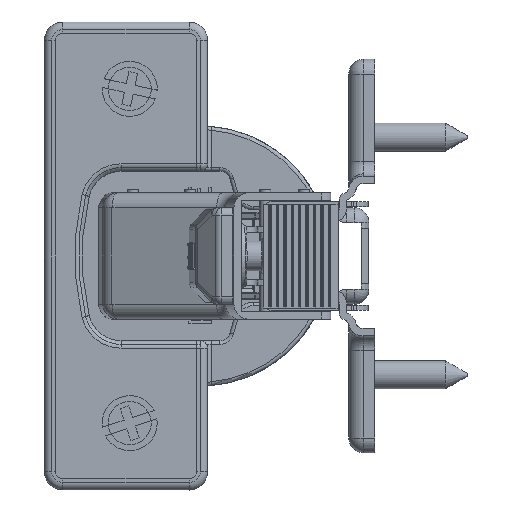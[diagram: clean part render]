
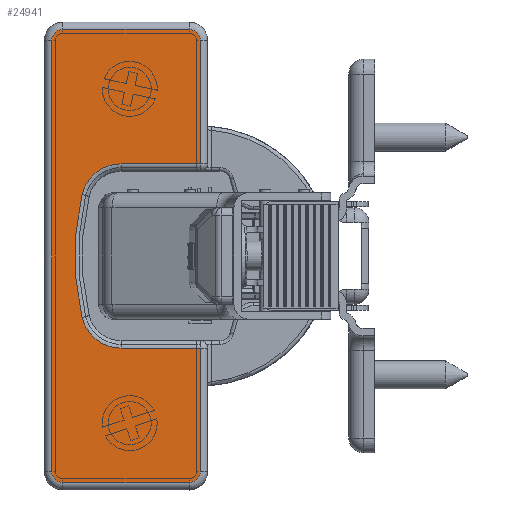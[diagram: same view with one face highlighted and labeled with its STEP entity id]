
A CAD part, left-side view. The second image highlights one B-rep face of the part: STEP entity #24941.
In plain terms, the highlighted planar face has unit normal (-1, 0, 0) as drawn and (0.179, 0.984, 0) by its records, which use the part's own axes.
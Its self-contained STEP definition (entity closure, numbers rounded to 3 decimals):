
#2434=CIRCLE('',#27136,1.5);
#2438=CIRCLE('',#27142,1.5);
#2442=CIRCLE('',#27148,1.5);
#2446=CIRCLE('',#27154,1.5);
#2450=CIRCLE('',#27161,5.4);
#2453=CIRCLE('',#27165,35.4);
#2456=CIRCLE('',#27169,5.4);
#3631=FACE_OUTER_BOUND('',#5159,.T.);
#5159=EDGE_LOOP('',(#20278,#20279,#20280,#20281,#20282,#20283,#20284,#20285,
#20286,#20287,#20288,#20289,#20290,#20291));
#7037=LINE('',#41890,#9015);
#7039=LINE('',#41902,#9017);
#7041=LINE('',#41914,#9019);
#7043=LINE('',#41926,#9021);
#7045=LINE('',#41935,#9023);
#7047=LINE('',#41941,#9025);
#7049=LINE('',#41962,#9027);
#9015=VECTOR('',#32811,16.6);
#9017=VECTOR('',#32825,17.);
#9019=VECTOR('',#32839,58.);
#9021=VECTOR('',#32853,17.);
#9023=VECTOR('',#32865,16.6);
#9025=VECTOR('',#32871,10.672);
#9027=VECTOR('',#32899,10.672);
#11120=VERTEX_POINT('',#41862);
#11125=VERTEX_POINT('',#41875);
#11130=VERTEX_POINT('',#41888);
#11132=VERTEX_POINT('',#41894);
#11134=VERTEX_POINT('',#41900);
#11136=VERTEX_POINT('',#41906);
#11138=VERTEX_POINT('',#41912);
#11140=VERTEX_POINT('',#41918);
#11142=VERTEX_POINT('',#41924);
#11144=VERTEX_POINT('',#41930);
#11146=VERTEX_POINT('',#41939);
#11148=VERTEX_POINT('',#41945);
#11150=VERTEX_POINT('',#41951);
#11152=VERTEX_POINT('',#41957);
#14211=EDGE_CURVE('',#11130,#11125,#7037,.T.);
#14214=EDGE_CURVE('',#11132,#11130,#2434,.T.);
#14217=EDGE_CURVE('',#11134,#11132,#7039,.T.);
#14220=EDGE_CURVE('',#11136,#11134,#2438,.T.);
#14223=EDGE_CURVE('',#11138,#11136,#7041,.T.);
#14226=EDGE_CURVE('',#11140,#11138,#2442,.T.);
#14229=EDGE_CURVE('',#11142,#11140,#7043,.T.);
#14232=EDGE_CURVE('',#11144,#11142,#2446,.T.);
#14234=EDGE_CURVE('',#11120,#11144,#7045,.T.);
#14237=EDGE_CURVE('',#11146,#11120,#7047,.T.);
#14240=EDGE_CURVE('',#11148,#11146,#2450,.T.);
#14243=EDGE_CURVE('',#11150,#11148,#2453,.T.);
#14246=EDGE_CURVE('',#11152,#11150,#2456,.T.);
#14248=EDGE_CURVE('',#11125,#11152,#7049,.T.);
#20278=ORIENTED_EDGE('',*,*,#14211,.F.);
#20279=ORIENTED_EDGE('',*,*,#14214,.F.);
#20280=ORIENTED_EDGE('',*,*,#14217,.F.);
#20281=ORIENTED_EDGE('',*,*,#14220,.F.);
#20282=ORIENTED_EDGE('',*,*,#14223,.F.);
#20283=ORIENTED_EDGE('',*,*,#14226,.F.);
#20284=ORIENTED_EDGE('',*,*,#14229,.F.);
#20285=ORIENTED_EDGE('',*,*,#14232,.F.);
#20286=ORIENTED_EDGE('',*,*,#14234,.F.);
#20287=ORIENTED_EDGE('',*,*,#14237,.F.);
#20288=ORIENTED_EDGE('',*,*,#14240,.F.);
#20289=ORIENTED_EDGE('',*,*,#14243,.F.);
#20290=ORIENTED_EDGE('',*,*,#14246,.F.);
#20291=ORIENTED_EDGE('',*,*,#14248,.F.);
#22410=PLANE('',#27182);
#24941=ADVANCED_FACE('',(#3631),#22410,.T.);
#27136=AXIS2_PLACEMENT_3D('',#41896,#32817,#32818);
#27142=AXIS2_PLACEMENT_3D('',#41908,#32831,#32832);
#27148=AXIS2_PLACEMENT_3D('',#41920,#32845,#32846);
#27154=AXIS2_PLACEMENT_3D('',#41932,#32859,#32860);
#27161=AXIS2_PLACEMENT_3D('',#41947,#32877,#32878);
#27165=AXIS2_PLACEMENT_3D('',#41953,#32885,#32886);
#27169=AXIS2_PLACEMENT_3D('',#41959,#32893,#32894);
#27182=AXIS2_PLACEMENT_3D('',#41992,#32932,#32933);
#32811=DIRECTION('',(0.,0.,-1.));
#32817=DIRECTION('center_axis',(-0.179,-0.984,0.));
#32818=DIRECTION('ref_axis',(-0.696,0.126,0.707));
#32825=DIRECTION('',(-0.984,0.179,0.));
#32831=DIRECTION('center_axis',(-0.179,-0.984,0.));
#32832=DIRECTION('ref_axis',(0.696,-0.126,0.707));
#32839=DIRECTION('',(0.,0.,1.));
#32845=DIRECTION('center_axis',(-0.179,-0.984,0.));
#32846=DIRECTION('ref_axis',(0.696,-0.126,-0.707));
#32853=DIRECTION('',(0.984,-0.179,0.));
#32859=DIRECTION('center_axis',(-0.179,-0.984,0.));
#32860=DIRECTION('ref_axis',(-0.696,0.126,-0.707));
#32865=DIRECTION('',(0.,0.,-1.));
#32871=DIRECTION('',(-0.984,0.179,0.));
#32877=DIRECTION('center_axis',(0.179,0.984,0.));
#32878=DIRECTION('ref_axis',(0.609,-0.111,-0.785));
#32885=DIRECTION('center_axis',(0.179,0.984,0.));
#32886=DIRECTION('ref_axis',(0.984,-0.179,0.));
#32893=DIRECTION('center_axis',(0.179,0.984,0.));
#32894=DIRECTION('ref_axis',(0.609,-0.111,0.785));
#32899=DIRECTION('',(0.984,-0.179,0.));
#32932=DIRECTION('center_axis',(0.179,0.984,0.));
#32933=DIRECTION('ref_axis',(0.,0.,1.));
#41862=CARTESIAN_POINT('',(84.841,19.898,-12.4));
#41875=CARTESIAN_POINT('',(84.841,19.898,12.4));
#41888=CARTESIAN_POINT('',(84.841,19.898,29.));
#41890=CARTESIAN_POINT('',(84.841,19.898,5.7));
#41894=CARTESIAN_POINT('',(86.317,19.63,30.5));
#41896=CARTESIAN_POINT('Origin',(86.317,19.63,29.));
#41900=CARTESIAN_POINT('',(103.044,16.594,30.5));
#41902=CARTESIAN_POINT('',(91.106,18.761,30.5));
#41906=CARTESIAN_POINT('',(104.519,16.327,29.));
#41908=CARTESIAN_POINT('Origin',(103.044,16.594,29.));
#41912=CARTESIAN_POINT('',(104.519,16.327,-29.));
#41914=CARTESIAN_POINT('',(104.519,16.327,14.5));
#41918=CARTESIAN_POINT('',(103.044,16.594,-30.5));
#41920=CARTESIAN_POINT('Origin',(103.044,16.594,-29.));
#41924=CARTESIAN_POINT('',(86.317,19.63,-30.5));
#41926=CARTESIAN_POINT('',(99.469,17.243,-30.5));
#41930=CARTESIAN_POINT('',(84.841,19.898,-29.));
#41932=CARTESIAN_POINT('Origin',(86.317,19.63,-29.));
#41935=CARTESIAN_POINT('',(84.841,19.898,-14.5));
#41939=CARTESIAN_POINT('',(95.341,17.992,-12.4));
#41941=CARTESIAN_POINT('',(89.876,18.984,-12.4));
#41945=CARTESIAN_POINT('',(100.508,17.055,-8.26));
#41947=CARTESIAN_POINT('Origin',(95.341,17.992,-7.));
#41951=CARTESIAN_POINT('',(100.508,17.055,8.26));
#41953=CARTESIAN_POINT('Origin',(66.638,23.202,0.));
#41957=CARTESIAN_POINT('',(95.341,17.992,12.4));
#41959=CARTESIAN_POINT('Origin',(95.341,17.992,7.));
#41962=CARTESIAN_POINT('',(95.618,17.942,12.4));
#41992=CARTESIAN_POINT('Origin',(95.895,17.892,0.));
